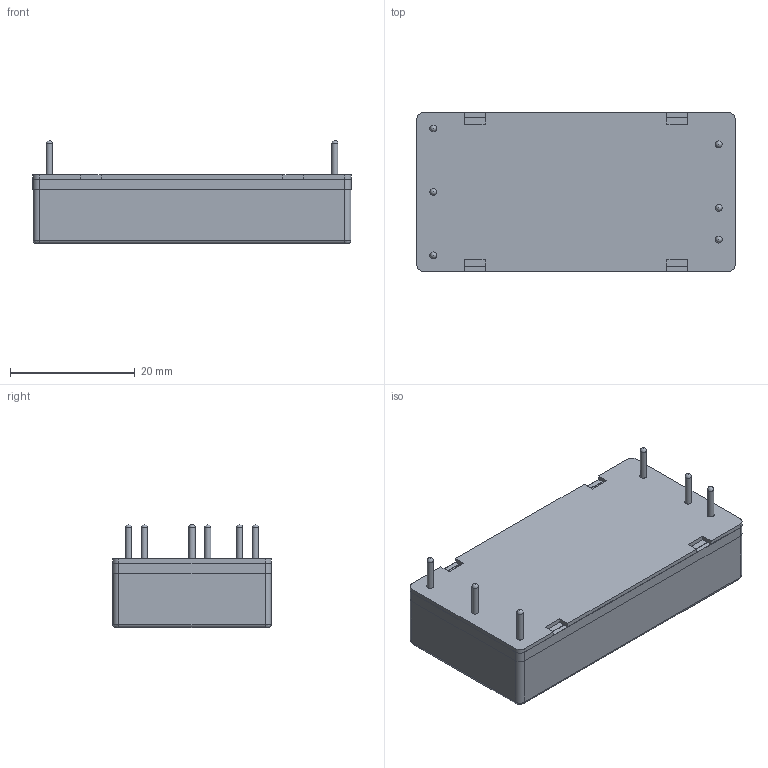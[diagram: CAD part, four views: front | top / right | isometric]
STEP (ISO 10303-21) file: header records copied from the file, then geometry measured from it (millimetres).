
FILE_DESCRIPTION(/* description */ (''),/* implementation_level */ '2;1');
FILE_NAME(/* name */ 'C:\Users\Calliope\Documents\Inventor\專案部\MKWI50(高志明)\3D尺寸外觀\型錄用-STEP檔\MKZI10(Type A)+MKZI20(Type A).stp',/* time_stamp */ '2016-09-27T14:13:06+08:00',/* author */ ('Calliope'),/* organization */ (''),/* preprocessor_version */ 'ST-DEVELOPER v15.6',/* originating_system */ 'Autodesk Inventor 2015',/* authorisation */ '');
FILE_SCHEMA (('AUTOMOTIVE_DESIGN { 1 0 10303 214 3 1 1 }'));
Length unit declared in the file: millimetre
Products named in the file (3): MKZI10(Type A); MKWI50 PIN; MKZI10(Type A)+MKZI20(Type A)
Assembly tree (2 placements, depth 2):
  MKZI10(Type A)+MKZI20(Type A)
    MKZI10(Type A)
    MKWI50 PIN
Bounding box: 50.95 x 25.45 x 16.5 mm (x, y, z)
Volume: 3323.8 mm3; surface area: 9009.9 mm2
Topology: 8 solids, 8 shells, 130 faces, 360 edges, 266 vertices
Faces by surface type: plane 76, cylinder 40, sphere 10, bspline 4
Full cylindrical faces by diameter (mm): 1 x6, 1.1 x6
Entity records: 4030 total; most frequent: CARTESIAN_POINT 759, DIRECTION 694, ORIENTED_EDGE 600, EDGE_CURVE 300, LINE 232, VECTOR 232, AXIS2_PLACEMENT_3D 231, VERTEX_POINT 196
